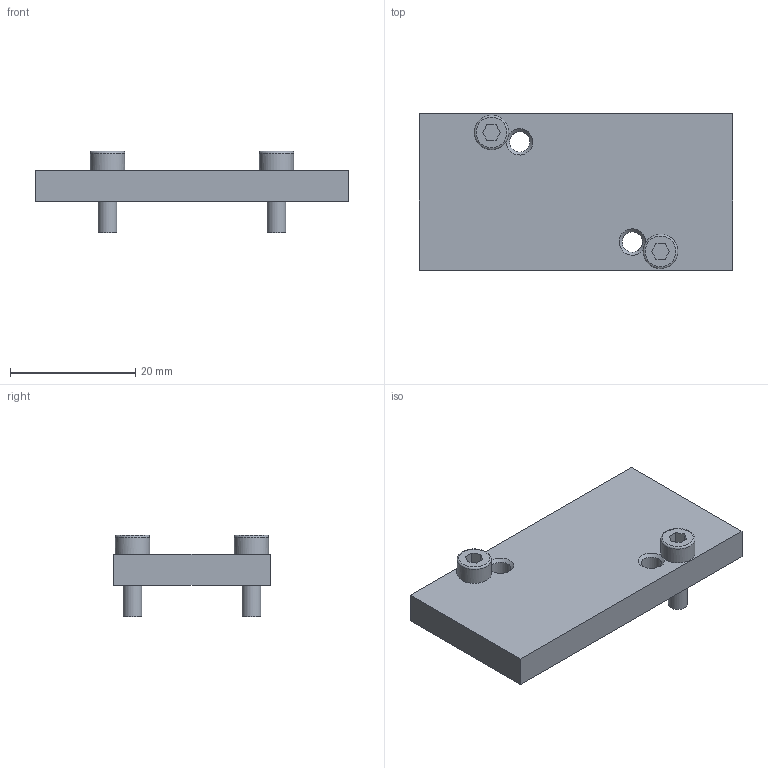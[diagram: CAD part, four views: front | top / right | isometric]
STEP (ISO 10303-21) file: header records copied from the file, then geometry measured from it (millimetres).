
FILE_DESCRIPTION((''),'2;1');
FILE_NAME('K:\A-Roberto\_Inventor\Rev.Librerie\TECNOECO\T488_00.stp','2006-10-06T08:47:37',('rivolro1'),(''),'Autodesk Inventor 11','Autodesk Inventor 11','');
FILE_SCHEMA(('AUTOMOTIVE_DESIGN { 1 0 10303 214 1 1 1 1 }'));
Length unit declared in the file: millimetre
Products named in the file (1): T488_00
Bounding box: 50 x 25 x 13 mm (x, y, z)
Volume: 6342.4 mm3; surface area: 3554.2 mm2
Topology: 1 solids, 1 shells, 38 faces, 88 edges, 56 vertices
Faces by surface type: plane 26, bspline 6, cylinder 4, torus 2
Full cylindrical faces by diameter (mm): 3 x2, 5.5 x2
Entity records: 1065 total; most frequent: CARTESIAN_POINT 261, DIRECTION 158, ORIENTED_EDGE 140, EDGE_CURVE 70, EDGE_LOOP 58, AXIS2_PLACEMENT_3D 55, VERTEX_POINT 50, VECTOR 48
